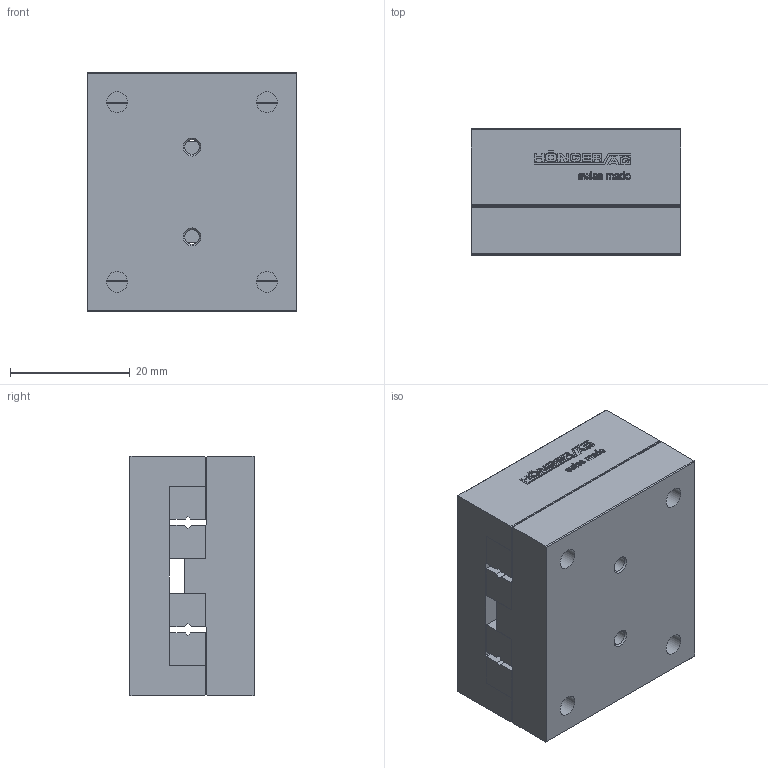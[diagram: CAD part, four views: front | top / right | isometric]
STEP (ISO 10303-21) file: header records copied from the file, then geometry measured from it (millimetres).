
FILE_DESCRIPTION(/* description */ ('STEP AP214'),/* implementation_level */ '2;1');
FILE_NAME(/* name */ 'NKL 2-35(0)',/* time_stamp */ '2025-04-23T07:57:42+02:00',/* author */ ('License CC BY-ND 4.0'),/* organization */ ('CADENAS'),/* preprocessor_version */ 'ST-DEVELOPER v19.3',/* originating_system */ 'PARTsolutions',/* authorisation */ ' ');
FILE_SCHEMA (('AUTOMOTIVE_DESIGN {1 0 10303 214 3 1 1}'));
Length unit declared in the file: millimetre
Products named in the file (3): NKL 2-35(0); NKL 2-35_1; NKL 2-35_2
Assembly tree (2 placements, depth 2):
  NKL 2-35(0)
    NKL 2-35_1
    NKL 2-35_2
Bounding box: 35 x 21 x 40 mm (x, y, z)
Volume: 27417.1 mm3; surface area: 11834.4 mm2
Topology: 2 solids, 2 shells, 591 faces, 1650 edges, 1092 vertices
Faces by surface type: cylinder 304, plane 279, cone 8
Full cylindrical faces by diameter (mm): 2.459 x4, 3.5 x4, 6 x4
Entity records: 19147 total; most frequent: DIRECTION 3434, CARTESIAN_POINT 3324, ORIENTED_EDGE 3256, EDGE_CURVE 1628, AXIS2_PLACEMENT_3D 1216, VERTEX_POINT 1090, LINE 1002, VECTOR 1002
